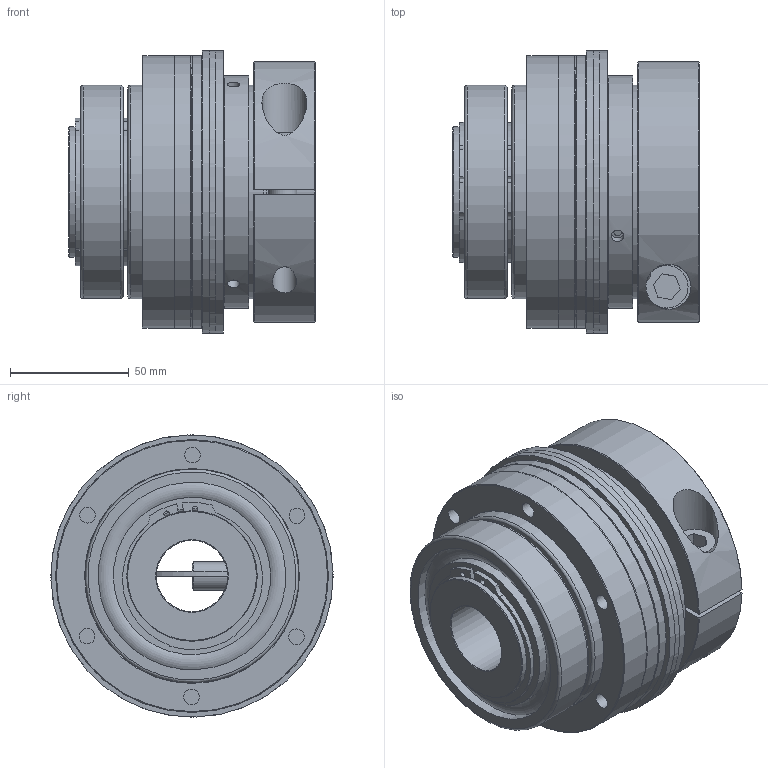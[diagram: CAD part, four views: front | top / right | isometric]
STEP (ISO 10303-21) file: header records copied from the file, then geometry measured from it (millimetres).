
FILE_DESCRIPTION( ( 'Unknown' ), '1' );
FILE_NAME( 'C:/Dokumente und Einstellungen/Sven/Desktop/hp kbk/KBK LL-K-300.stp', 'Unknown', ( 'Unknown' ), ( 'Unknown' ), 'XStep 1.0', 'Unknown', ' ' );
FILE_SCHEMA( ( 'automotive_design' ) );
Length unit declared in the file: millimetre
Products named in the file (13): Assem1; Assem2; Assem3; Zylinderschraube DIN 912_2_0; ball_bearing_-_6011_0_01; ball_bearing_-_6011_0_02; ball_bearing_-_6011_0_03; Klemmnabe 300; Stellring 300; Druckring 300; a_55; Kupplung LL-K-300 Grundkörper; Flansch 300
Bounding box: 104 x 119 x 119 mm (x, y, z)
Volume: 1417723.7 mm3; surface area: 401088.5 mm2
Topology: 28 solids, 28 shells, 327 faces, 680 edges, 439 vertices
Faces by surface type: cylinder 136, plane 118, cone 41, torus 32
Full cylindrical faces by diameter (mm): 2.5 x6, 3.242 x6, 5.2 x6, 6.647 x12, 10.106 x2, 12 x3, 12.5 x2, 18 x3, 19 x2, 30 x2, 52 x4, 55 x10, 60 x2, 66.3 x8, 70 x2, 76 x4, 79.1 x8, 83.5 x2, 88 x2, 90 x6, 98 x2, 98.5 x2, 115 x4, 119 x2
Entity records: 4030 total; most frequent: CARTESIAN_POINT 1019, DIRECTION 588, ORIENTED_EDGE 368, AXIS2_PLACEMENT_3D 273, EDGE_LOOP 244, EDGE_CURVE 184, FACE_OUTER_BOUND 182, VERTEX_POINT 158
